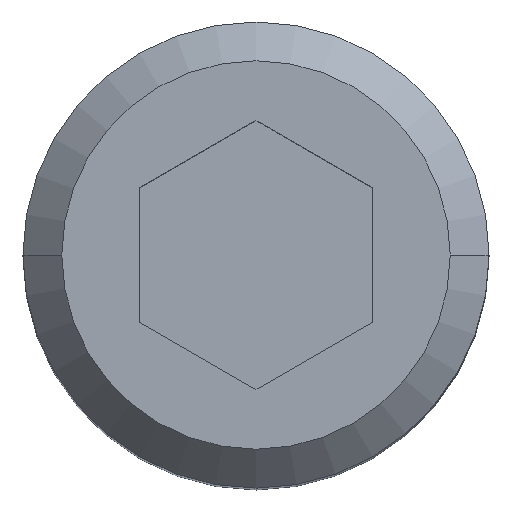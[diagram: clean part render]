
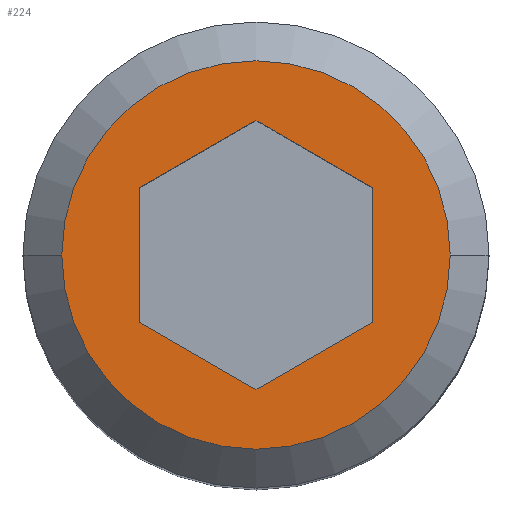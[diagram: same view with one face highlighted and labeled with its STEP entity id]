
A CAD part, top view. The second image highlights one B-rep face of the part: STEP entity #224.
In plain terms, the highlighted planar face has unit normal (0, 0, 1).
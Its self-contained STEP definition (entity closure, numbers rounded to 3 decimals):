
#1 = EDGE_CURVE ( 'NONE', #241, #13, #42, .T. ) ;
#13 = VERTEX_POINT ( 'NONE', #555 ) ;
#19 = CARTESIAN_POINT ( 'NONE',  ( -1.5, -0.866, 16. ) ) ;
#24 = FACE_BOUND ( 'NONE', #155, .T. ) ;
#26 = VECTOR ( 'NONE', #465, 1000. ) ;
#32 = CARTESIAN_POINT ( 'NONE',  ( 0., 0., 16. ) ) ;
#37 = ORIENTED_EDGE ( 'NONE', *, *, #403, .T. ) ;
#42 = CIRCLE ( 'NONE', #91, 2.5 ) ;
#45 = CARTESIAN_POINT ( 'NONE',  ( -1.5, 0.866, 16. ) ) ;
#70 = DIRECTION ( 'NONE',  ( 1., 0., 0. ) ) ;
#78 = CIRCLE ( 'NONE', #311, 2.5 ) ;
#81 = LINE ( 'NONE', #130, #442 ) ;
#91 = AXIS2_PLACEMENT_3D ( 'NONE', #404, #354, #70 ) ;
#103 = ORIENTED_EDGE ( 'NONE', *, *, #234, .T. ) ;
#118 = PLANE ( 'NONE',  #276 ) ;
#124 = LINE ( 'NONE', #487, #483 ) ;
#130 = CARTESIAN_POINT ( 'NONE',  ( 1.5, 0.866, 16. ) ) ;
#131 = CARTESIAN_POINT ( 'NONE',  ( -2.5, 0., 16. ) ) ;
#142 = VERTEX_POINT ( 'NONE', #289 ) ;
#151 = ORIENTED_EDGE ( 'NONE', *, *, #489, .T. ) ;
#154 = DIRECTION ( 'NONE',  ( 1., 0., 0. ) ) ;
#155 = EDGE_LOOP ( 'NONE', ( #103, #499, #515, #151, #179, #37 ) ) ;
#168 = CARTESIAN_POINT ( 'NONE',  ( 0., 1.732, 16. ) ) ;
#171 = CARTESIAN_POINT ( 'NONE',  ( -1.5, 0.866, 16. ) ) ;
#179 = ORIENTED_EDGE ( 'NONE', *, *, #400, .F. ) ;
#192 = EDGE_CURVE ( 'NONE', #13, #241, #78, .T. ) ;
#224 = ADVANCED_FACE ( 'NONE', ( #24, #351 ), #118, .F. ) ;
#234 = EDGE_CURVE ( 'NONE', #422, #392, #405, .T. ) ;
#238 = ORIENTED_EDGE ( 'NONE', *, *, #1, .F. ) ;
#241 = VERTEX_POINT ( 'NONE', #131 ) ;
#263 = CARTESIAN_POINT ( 'NONE',  ( 1.5, -0.866, 16. ) ) ;
#264 = EDGE_LOOP ( 'NONE', ( #537, #238 ) ) ;
#267 = LINE ( 'NONE', #491, #476 ) ;
#268 = EDGE_CURVE ( 'NONE', #394, #477, #383, .T. ) ;
#276 = AXIS2_PLACEMENT_3D ( 'NONE', #32, #550, #154 ) ;
#278 = DIRECTION ( 'NONE',  ( 0., 1., 0. ) ) ;
#282 = DIRECTION ( 'NONE',  ( 0., 0., -1. ) ) ;
#289 = CARTESIAN_POINT ( 'NONE',  ( 0., -1.732, 16. ) ) ;
#311 = AXIS2_PLACEMENT_3D ( 'NONE', #506, #282, #464 ) ;
#324 = CARTESIAN_POINT ( 'NONE',  ( 1.5, -0.866, 16. ) ) ;
#335 = LINE ( 'NONE', #508, #26 ) ;
#351 = FACE_OUTER_BOUND ( 'NONE', #264, .T. ) ;
#354 = DIRECTION ( 'NONE',  ( 0., 0., -1. ) ) ;
#380 = VECTOR ( 'NONE', #278, 1000. ) ;
#383 = LINE ( 'NONE', #324, #380 ) ;
#391 = VECTOR ( 'NONE', #496, 1000. ) ;
#392 = VERTEX_POINT ( 'NONE', #168 ) ;
#393 = EDGE_CURVE ( 'NONE', #477, #392, #81, .T. ) ;
#394 = VERTEX_POINT ( 'NONE', #263 ) ;
#400 = EDGE_CURVE ( 'NONE', #484, #142, #124, .T. ) ;
#403 = EDGE_CURVE ( 'NONE', #484, #422, #267, .T. ) ;
#404 = CARTESIAN_POINT ( 'NONE',  ( 0., 0., 16. ) ) ;
#405 = LINE ( 'NONE', #171, #391 ) ;
#422 = VERTEX_POINT ( 'NONE', #45 ) ;
#430 = CARTESIAN_POINT ( 'NONE',  ( 1.5, 0.866, 16. ) ) ;
#442 = VECTOR ( 'NONE', #527, 1000. ) ;
#464 = DIRECTION ( 'NONE',  ( 1., 0., 0. ) ) ;
#465 = DIRECTION ( 'NONE',  ( -0.866, -0.5, 0. ) ) ;
#476 = VECTOR ( 'NONE', #521, 1000. ) ;
#477 = VERTEX_POINT ( 'NONE', #430 ) ;
#483 = VECTOR ( 'NONE', #526, 1000. ) ;
#484 = VERTEX_POINT ( 'NONE', #19 ) ;
#487 = CARTESIAN_POINT ( 'NONE',  ( -1.5, -0.866, 16. ) ) ;
#489 = EDGE_CURVE ( 'NONE', #394, #142, #335, .T. ) ;
#491 = CARTESIAN_POINT ( 'NONE',  ( -1.5, -0.866, 16. ) ) ;
#496 = DIRECTION ( 'NONE',  ( 0.866, 0.5, 0. ) ) ;
#499 = ORIENTED_EDGE ( 'NONE', *, *, #393, .F. ) ;
#506 = CARTESIAN_POINT ( 'NONE',  ( 0., 0., 16. ) ) ;
#508 = CARTESIAN_POINT ( 'NONE',  ( 1.5, -0.866, 16. ) ) ;
#515 = ORIENTED_EDGE ( 'NONE', *, *, #268, .F. ) ;
#521 = DIRECTION ( 'NONE',  ( 0., 1., 0. ) ) ;
#526 = DIRECTION ( 'NONE',  ( 0.866, -0.5, 0. ) ) ;
#527 = DIRECTION ( 'NONE',  ( -0.866, 0.5, 0. ) ) ;
#537 = ORIENTED_EDGE ( 'NONE', *, *, #192, .F. ) ;
#550 = DIRECTION ( 'NONE',  ( 0., 0., -1. ) ) ;
#555 = CARTESIAN_POINT ( 'NONE',  ( 2.5, 0., 16. ) ) ;
